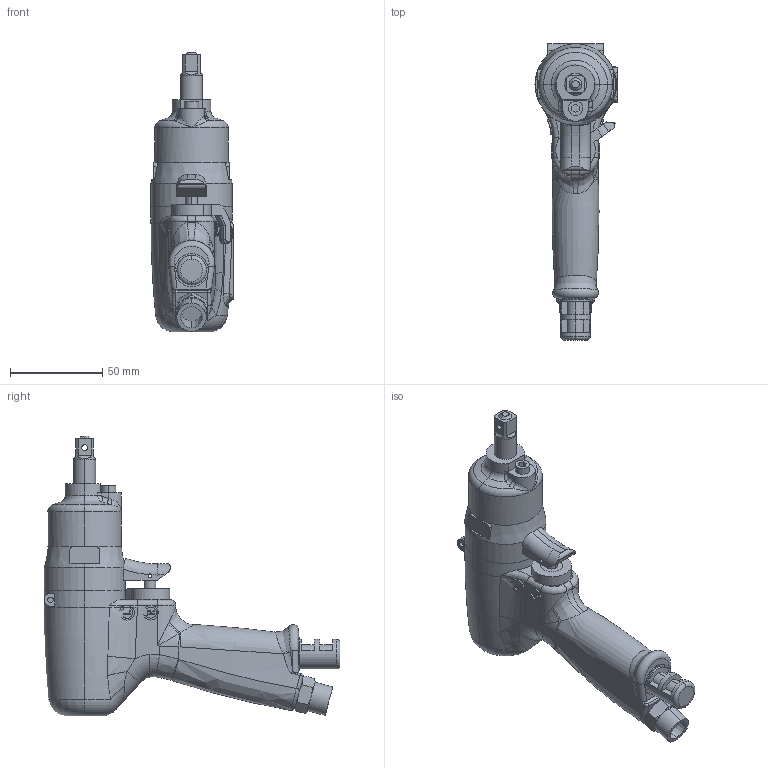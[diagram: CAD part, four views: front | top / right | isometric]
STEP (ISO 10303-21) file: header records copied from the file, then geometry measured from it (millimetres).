
FILE_DESCRIPTION (( 'STEP AP214' ), '1' );
FILE_NAME ('UX-450.STEP', '2006-09-07T02:02:10', ( '' ), ( '' ), 'SwSTEP 2.0', 'SolidWorks 2004073', '' );
FILE_SCHEMA (( 'AUTOMOTIVE_DESIGN' ));
Length unit declared in the file: millimetre
Products named in the file (6): 1773195_UX-500_蹬怮椔; 1774395_UX-450D_蹬怮椔; 1770255_UX-450_蹬怮椔; 1771075_UX-450D_蹬怮椔; 4802128_UX-450D_蹬怮椔; UX-450
Assembly tree (5 placements, depth 2):
  UX-450
    1774395_UX-450D_蹬怮椔
    1771075_UX-450D_蹬怮椔
    4802128_UX-450D_蹬怮椔
    1770255_UX-450_蹬怮椔
    1773195_UX-500_蹬怮椔
Bounding box: 44.5 x 160.6 x 151.8 mm (x, y, z)
Volume: 261177.6 mm3; surface area: 40735.7 mm2
Topology: 5 solids, 5 shells, 621 faces, 1608 edges, 1021 vertices
Faces by surface type: plane 295, cylinder 141, bspline 128, torus 34, cone 23
Entity records: 54147 total; most frequent: CARTESIAN_POINT 37383, ORIENTED_EDGE 3200, DIRECTION 2532, EDGE_CURVE 1600, VERTEX_POINT 1021, AXIS2_PLACEMENT_3D 863, VECTOR 806, LINE 806
